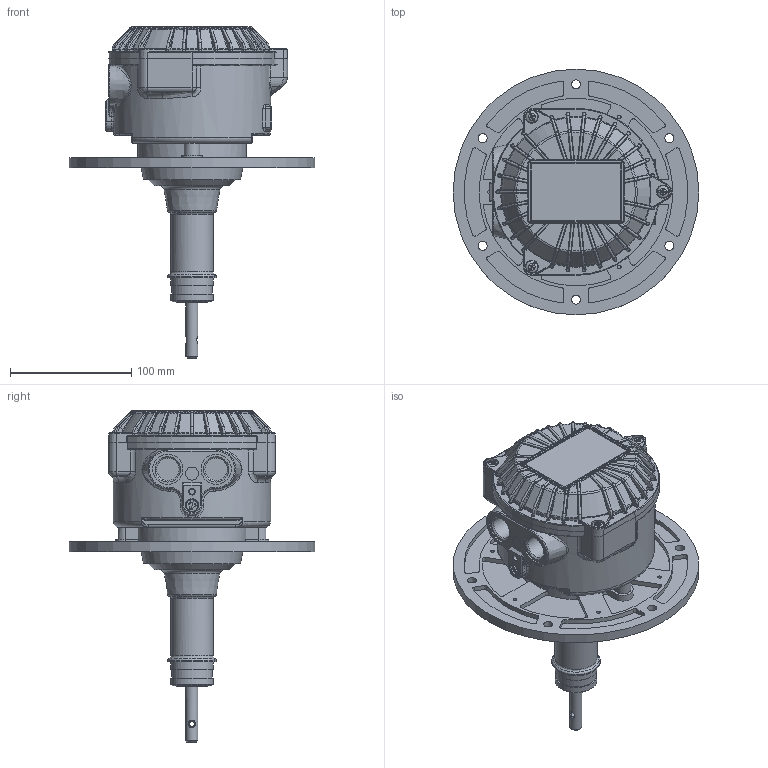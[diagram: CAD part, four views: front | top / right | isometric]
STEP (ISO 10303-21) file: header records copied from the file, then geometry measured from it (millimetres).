
FILE_DESCRIPTION(/* description */ (''),/* implementation_level */ '2;1');
FILE_NAME(/* name */ '\\srvgest\camlogic\TEMP\Kulwant S\2_STEP\2_STEP\PFG05\PFG-05 F.stp',/* time_stamp */ '2021-06-10T10:28:31+02:00',/* author */ ('kulwant.singh'),/* organization */ (''),/* preprocessor_version */ 'ST-DEVELOPER v18.1',/* originating_system */ 'Autodesk Inventor 2022',/* authorisation */ '');
FILE_SCHEMA (('AUTOMOTIVE_DESIGN { 1 0 10303 214 3 1 1 }'));
Products named in the file (1): PFG-05 F
Bounding box: 203 x 203 x 274.35 mm (x, y, z)
Volume: 1713620.8 mm3; surface area: 162805.8 mm2
Topology: 1 solids, 1 shells, 2152 faces, 5077 edges, 2956 vertices
Faces by surface type: bspline 695, cylinder 494, plane 414, torus 231, cone 202, sphere 116
Full cylindrical faces by diameter (mm): 3 x6, 4.134 x1, 4.65 x1, 7.5 x6, 10 x6, 10.5 x1, 10.75 x1, 10.8 x3, 11 x2, 14.2 x1, 18.631 x2, 23.5 x1, 25 x2, 26 x1, 27 x1, 33.5 x1, 34.8 x3, 40 x1, 203 x1
Entity records: 84311 total; most frequent: CARTESIAN_POINT 36639, ORIENTED_EDGE 10120, DIRECTION 8666, EDGE_CURVE 5060, AXIS2_PLACEMENT_3D 3667, VERTEX_POINT 2956, EDGE_LOOP 2214, FACE_OUTER_BOUND 2152
